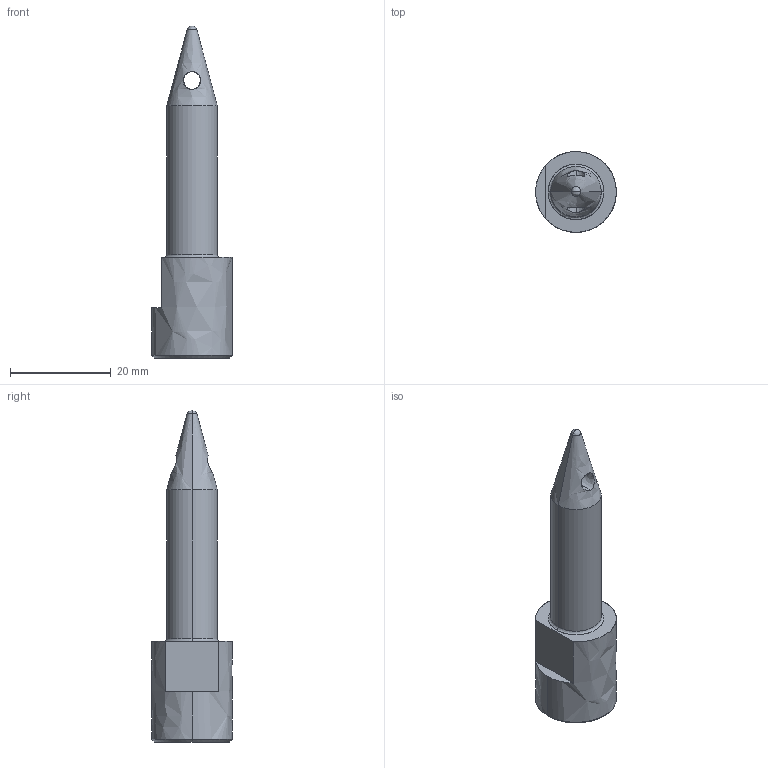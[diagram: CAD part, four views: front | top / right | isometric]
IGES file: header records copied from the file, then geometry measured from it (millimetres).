
Global section: file name: E:\UnigraphicsGraphicData\MISUMI_PRESS-PARTS\IGES\3d_sdklh16-p10.00-b30_02964_r00.igs; native system: NX V5.0; preprocessor: UGS NX IGES V5.0; author: MISUMI; date: 20110105.162516; units: millimetre
Bounding box: 16 x 16 x 65.8 mm (x, y, z)
Surface area: 2592.4 mm2 (no closed solid volume)
Topology: 0 solids, 0 shells, 18 faces, 120 edges, 118 vertices
Faces by surface type: bspline 18
